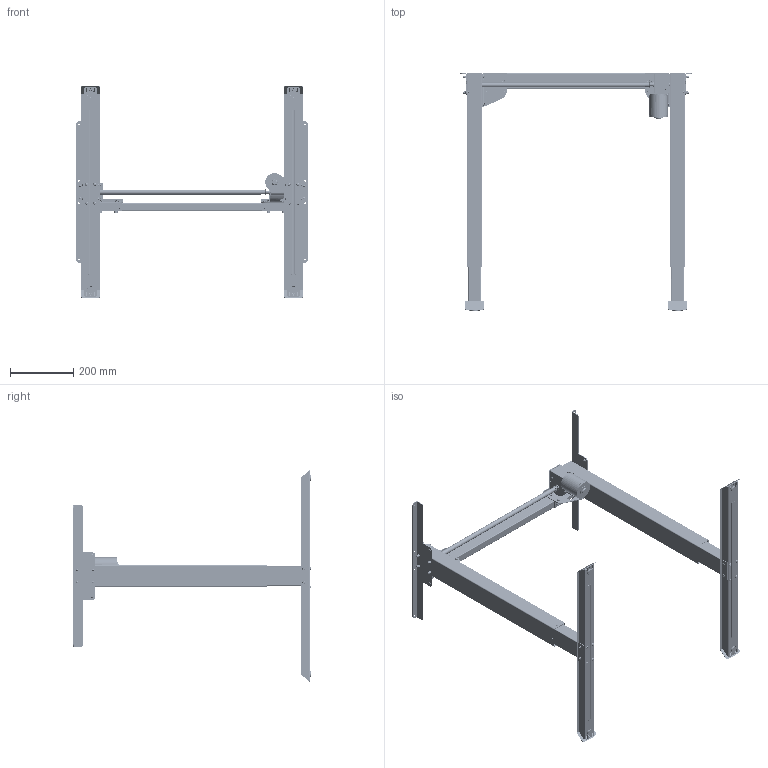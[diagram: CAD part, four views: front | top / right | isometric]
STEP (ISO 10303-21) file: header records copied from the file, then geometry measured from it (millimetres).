
FILE_DESCRIPTION (( 'STEP AP214' ), '1' );
FILE_NAME ('Tech-draw_501-20_XX072.STEP', '2024-01-12T08:36:46', ( '' ), ( '' ), 'SwSTEP 2.0', 'SolidWorks 2023', '' );
FILE_SCHEMA (( 'AUTOMOTIVE_DESIGN' ));
Length unit declared in the file: millimetre
Products named in the file (66): 353050; 347910_72; 322650_501-33; 356390; 159280_501-20; 360380; 349470; 332570; 155730_silver; 156460_Shell; 156480; 347920_72; 160370_silver; 360340_kopi_gammel; Tech-draw_501-20_XX072; 305990; 341220; 353120; 357710; 151900; 357990_black; 156440_Shell; 360290_Mirror; 359910_501-33 NY; 156470_501-33 NEW; 301890_Bend 7; 360300; 160340_501-20 XS072; 356710_silver; 360360_70mm; 357580; 353100; 357630; 352350; 340560; 360490; 144260_72; 341800; 360310; 357640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
Assembly tree (159 placements, depth 7):
  Tech-draw_501-20_XX072
    160340_501-20 XS072
      347910_72
      144260_72
        347920_72
        340560
        341220
      340760  x3
      332570  x4
      160370_silver
        360300
        360330
        159290_Shell
          156440_Shell
            156460_Shell
              356390
              360340_kopi_gammel
            357580  x2
            357760_Højere
            358020
            357710
            352350
          357630  x2
          357640  x2
          341800
          156470_501-33 NEW
            357620
            360350_70mm
          352350
        159280_501-20
          359910_501-33 NY
          360380
          360490  x2
        360310
        358000_Simplify_1  x3
        340760  x2
        332570  x2
        349470  x2
        155730_silver
          357990_black
          356710_silver
          322810_zinc  x3
          353020
          353030
          151900
            353100
            322650_501-33  x2
            353050
            353060
            301890_Bend 7  x2
          353110  x2
          353120
          357720
        357610  x11
        358280  x4
        314690  x7
        325000  x8
      160360_silver
        159300_Shell
          156500_501-33 NEW
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Bounding box: 734 x 756.2 x 674.9 mm (x, y, z)
Volume: 1938713.5 mm3; surface area: 2225528.5 mm2
Topology: 153 solids, 153 shells, 7918 faces, 20276 edges, 12743 vertices
Faces by surface type: plane 4127, cylinder 2383, bspline 589, cone 406, torus 212, sphere 201
Full cylindrical faces by diameter (mm): 1 x3, 1.2 x16, 1.6 x1, 1.7 x2, 1.9 x6, 2.2 x2, 2.5 x5, 3 x20, 3.3 x6, 4 x48, 4.2 x12, 4.5 x5, 4.98 x2, 5 x224, 5.5 x7, 6 x240, 6.4 x1, 7 x20, 7.4 x4, 7.5 x13, 8 x20, 8.2 x4, 8.5 x22, 9 x4, 10 x25, 11.9 x2, 12 x1, 13 x2, 14 x2, 16 x2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
Entity records: 168928 total; most frequent: CARTESIAN_POINT 59714, ORIENTED_EDGE 22410, DIRECTION 21572, EDGE_CURVE 11205, VERTEX_POINT 7339, AXIS2_PLACEMENT_3D 7321, VECTOR 6930, LINE 6930
